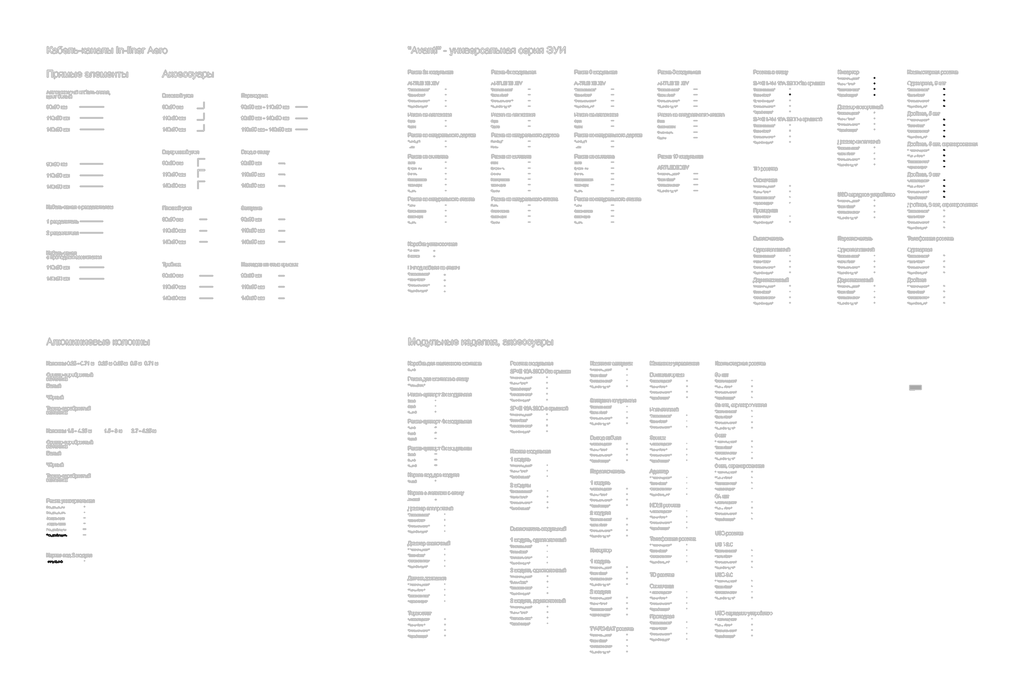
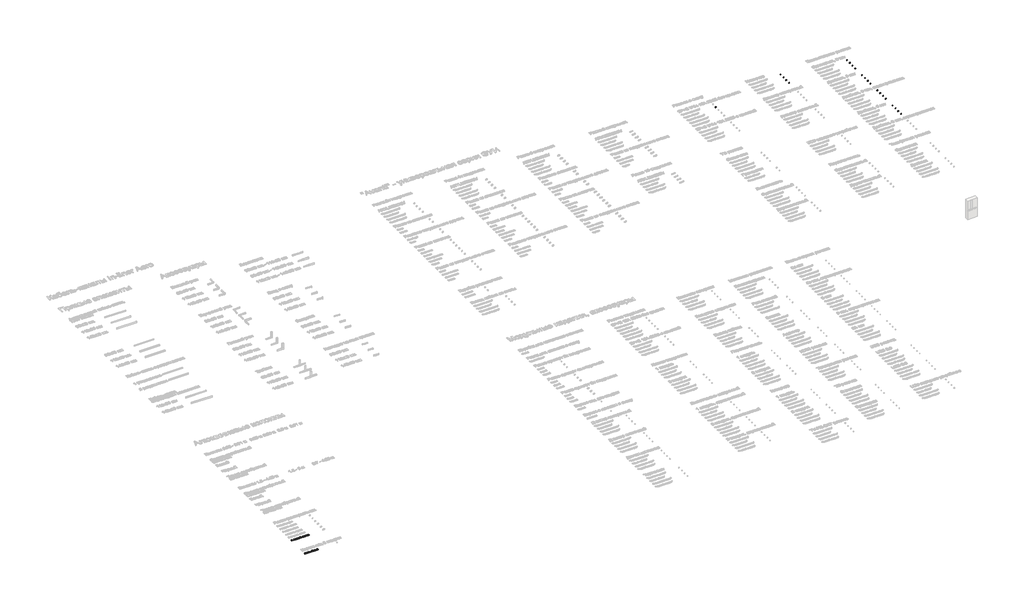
# One storey, part 4 of 168: 23 proxies.
"""IFC4 building model written with IfcOpenShell, lengths in millimetres."""

from ifc_helpers import new_model, si_unit, origin, origin_with_axes, place, context, project, spatial, polyline, outline, extrude, transform, mapped, element, save
from components import electrical_fixtures_3f9b09d0, electrical_fixtures_08b576f3, electrical_fixtures_504ae2bb, electrical_fixtures_d27445fa

model = new_model("IFC4")

# Units and contexts
model_context = context("Model", 3, world=origin())
ifc_project = project(units=[si_unit("LENGTHUNIT", "METRE", prefix="MILLI")], contexts=[model_context])

# Site, building, storey
site = spatial("IfcSite", under=ifc_project)
building = spatial("IfcBuilding", under=site)
storey = spatial("IfcBuildingStorey", under=building, Name="Этаж 01", Elevation=0.0)

# Proxies
placement = place(None, origin())
electrical_fixtures_shape = electrical_fixtures_3f9b09d0(model_context)
element("IfcBuildingElementProxy", 1, Name="КНС_РозеткаВСтену_DKC : 2P+E IP44 16А 230В_Белая", ObjectType="КНС_РозеткаВСтену_DKC : 2P+E IP44 16А 230В_Белая", at=placement, inside=storey, context=model_context, shape_type="MappedRepresentation", body=[
    mapped(electrical_fixtures_shape, transform((66821.1137461, -6896.8608655, 0.0), x_axis=(1.0, 0.0, 0.0), y_axis=(0.0, 1.0, 0.0), z_axis=(0.0, 0.0, 1.0))),
])
electrical_fixtures_2_shape = electrical_fixtures_08b576f3(model_context)
element("IfcBuildingElementProxy", 2, Name="КНС_ИнверторВСтену_DKC : Одноклавишный_Белый", ObjectType="КНС_ИнверторВСтену_DKC : Одноклавишный_Белый", at=placement, inside=storey, context=model_context, shape_type="MappedRepresentation", body=[
    mapped(electrical_fixtures_2_shape, transform((74321.1137461, -5896.8608655, 0.0), x_axis=(1.0, 0.0, 0.0), y_axis=(0.0, 1.0, 0.0), z_axis=(0.0, 0.0, 1.0))),
])
element("IfcBuildingElementProxy", 3, Name="КНС_ИнверторВСтену_DKC : Одноклавишный_Бежевый", ObjectType="КНС_ИнверторВСтену_DKC : Одноклавишный_Бежевый", at=placement, inside=storey, context=model_context, shape_type="MappedRepresentation", body=[
    mapped(electrical_fixtures_2_shape, transform((74321.1137461, -5396.8608655, 0.0), x_axis=(1.0, 0.0, 0.0), y_axis=(0.0, 1.0, 0.0), z_axis=(0.0, 0.0, 1.0))),
])
element("IfcBuildingElementProxy", 4, Name="КНС_ИнверторВСтену_DKC : Одноклавишный_Серый", ObjectType="КНС_ИнверторВСтену_DKC : Одноклавишный_Серый", at=placement, inside=storey, context=model_context, shape_type="MappedRepresentation", body=[
    mapped(electrical_fixtures_2_shape, transform((74321.1137461, -6396.8608655, 0.0), x_axis=(1.0, 0.0, 0.0), y_axis=(0.0, 1.0, 0.0), z_axis=(0.0, 0.0, 1.0))),
])
element("IfcBuildingElementProxy", 5, Name="КНС_ИнверторВСтену_DKC : Одноклавишный_Черный", ObjectType="КНС_ИнверторВСтену_DKC : Одноклавишный_Черный", at=placement, inside=storey, context=model_context, shape_type="MappedRepresentation", body=[
    mapped(electrical_fixtures_2_shape, transform((74321.1137461, -6896.8608655, 0.0), x_axis=(1.0, 0.0, 0.0), y_axis=(0.0, 1.0, 0.0), z_axis=(0.0, 0.0, 1.0))),
])
electrical_fixtures_3_shape = electrical_fixtures_504ae2bb(model_context)
element("IfcBuildingElementProxy", 6, Name="КНС_РозеткаКомпьютернаяВСтену_DKC : 5 кат двойная экранированная белая", ObjectType="КНС_РозеткаКомпьютернаяВСтену_DKC : 5 кат двойная экранированная белая", at=placement, inside=storey, context=model_context, shape_type="MappedRepresentation", body=[
    mapped(electrical_fixtures_3_shape, transform((80521.1137461, -12296.8608655, 0.0), x_axis=(1.0, 0.0, 0.0), y_axis=(0.0, 1.0, 0.0), z_axis=(0.0, 0.0, 1.0))),
])
element("IfcBuildingElementProxy", 7, Name="КНС_РозеткаКомпьютернаяВСтену_DKC : 5 кат двойная экранированная бежевая", ObjectType="КНС_РозеткаКомпьютернаяВСтену_DKC : 5 кат двойная экранированная бежевая", at=placement, inside=storey, context=model_context, shape_type="MappedRepresentation", body=[
    mapped(electrical_fixtures_3_shape, transform((80521.1137461, -11796.8608655, 0.0), x_axis=(1.0, 0.0, 0.0), y_axis=(0.0, 1.0, 0.0), z_axis=(0.0, 0.0, 1.0))),
])
element("IfcBuildingElementProxy", 8, Name="КНС_РозеткаКомпьютернаяВСтену_DKC : 5 кат двойная экранированная серая", ObjectType="КНС_РозеткаКомпьютернаяВСтену_DKC : 5 кат двойная экранированная серая", at=placement, inside=storey, context=model_context, shape_type="MappedRepresentation", body=[
    mapped(electrical_fixtures_3_shape, transform((80521.1137461, -12796.8608655, 0.0), x_axis=(1.0, 0.0, 0.0), y_axis=(0.0, 1.0, 0.0), z_axis=(0.0, 0.0, 1.0))),
])
element("IfcBuildingElementProxy", 9, Name="КНС_РозеткаКомпьютернаяВСтену_DKC : 5 кат двойная экранированная черная", ObjectType="КНС_РозеткаКомпьютернаяВСтену_DKC : 5 кат двойная экранированная черная", at=placement, inside=storey, context=model_context, shape_type="MappedRepresentation", body=[
    mapped(electrical_fixtures_3_shape, transform((80521.1137461, -13296.8608655, 0.0), x_axis=(1.0, 0.0, 0.0), y_axis=(0.0, 1.0, 0.0), z_axis=(0.0, 0.0, 1.0))),
])
element("IfcBuildingElementProxy", 10, Name="КНС_РозеткаКомпьютернаяВСтену_DKC : 5 кат двойная белая", ObjectType="КНС_РозеткаКомпьютернаяВСтену_DKC : 5 кат двойная белая", at=placement, inside=storey, context=model_context, shape_type="MappedRepresentation", body=[
    mapped(electrical_fixtures_3_shape, transform((80521.1137461, -9596.8608655, 0.0), x_axis=(1.0, 0.0, 0.0), y_axis=(0.0, 1.0, 0.0), z_axis=(0.0, 0.0, 1.0))),
])
element("IfcBuildingElementProxy", 11, Name="КНС_РозеткаКомпьютернаяВСтену_DKC : 5 кат двойная бежевая", ObjectType="КНС_РозеткаКомпьютернаяВСтену_DKC : 5 кат двойная бежевая", at=placement, inside=storey, context=model_context, shape_type="MappedRepresentation", body=[
    mapped(electrical_fixtures_3_shape, transform((80521.1137461, -9096.8608655, 0.0), x_axis=(1.0, 0.0, 0.0), y_axis=(0.0, 1.0, 0.0), z_axis=(0.0, 0.0, 1.0))),
])
element("IfcBuildingElementProxy", 12, Name="КНС_РозеткаКомпьютернаяВСтену_DKC : 5 кат двойная серая", ObjectType="КНС_РозеткаКомпьютернаяВСтену_DKC : 5 кат двойная серая", at=placement, inside=storey, context=model_context, shape_type="MappedRepresentation", body=[
    mapped(electrical_fixtures_3_shape, transform((80521.1137461, -10096.8608655, 0.0), x_axis=(1.0, 0.0, 0.0), y_axis=(0.0, 1.0, 0.0), z_axis=(0.0, 0.0, 1.0))),
])
element("IfcBuildingElementProxy", 13, Name="КНС_РозеткаКомпьютернаяВСтену_DKC : 5 кат двойная черная", ObjectType="КНС_РозеткаКомпьютернаяВСтену_DKC : 5 кат двойная черная", at=placement, inside=storey, context=model_context, shape_type="MappedRepresentation", body=[
    mapped(electrical_fixtures_3_shape, transform((80521.1137461, -10596.8608655, 0.0), x_axis=(1.0, 0.0, 0.0), y_axis=(0.0, 1.0, 0.0), z_axis=(0.0, 0.0, 1.0))),
])
electrical_fixtures_4_shape = electrical_fixtures_d27445fa(model_context)
element("IfcBuildingElementProxy", 14, Name="КНС_РозеткаКомпьютернаяВСтену_DKC : 5 кат одинарная бежевая", ObjectType="КНС_РозеткаКомпьютернаяВСтену_DKC : 5 кат одинарная бежевая", at=placement, inside=storey, context=model_context, shape_type="MappedRepresentation", body=[
    mapped(electrical_fixtures_4_shape, transform((80521.1137461, -6396.8608655, 0.0), x_axis=(1.0, 0.0, 0.0), y_axis=(0.0, 1.0, 0.0), z_axis=(0.0, 0.0, 1.0))),
])
element("IfcBuildingElementProxy", 15, Name="КНС_РозеткаКомпьютернаяВСтену_DKC : 5 кат одинарная белая", ObjectType="КНС_РозеткаКомпьютернаяВСтену_DKC : 5 кат одинарная белая", at=placement, inside=storey, context=model_context, shape_type="MappedRepresentation", body=[
    mapped(electrical_fixtures_4_shape, transform((80521.1137461, -6896.8608655, 0.0), x_axis=(1.0, 0.0, 0.0), y_axis=(0.0, 1.0, 0.0), z_axis=(0.0, 0.0, 1.0))),
])
element("IfcBuildingElementProxy", 16, Name="КНС_РозеткаКомпьютернаяВСтену_DKC : 5 кат одинарная серая", ObjectType="КНС_РозеткаКомпьютернаяВСтену_DKC : 5 кат одинарная серая", at=placement, inside=storey, context=model_context, shape_type="MappedRepresentation", body=[
    mapped(electrical_fixtures_4_shape, transform((80521.1137461, -7396.8608655, 0.0), x_axis=(1.0, 0.0, 0.0), y_axis=(0.0, 1.0, 0.0), z_axis=(0.0, 0.0, 1.0))),
])
element("IfcBuildingElementProxy", 17, Name="КНС_РозеткаКомпьютернаяВСтену_DKC : 5 кат одинарная черная", ObjectType="КНС_РозеткаКомпьютернаяВСтену_DKC : 5 кат одинарная черная", at=placement, inside=storey, context=model_context, shape_type="MappedRepresentation", body=[
    mapped(electrical_fixtures_4_shape, transform((80521.1137461, -7896.8608655, 0.0), x_axis=(1.0, 0.0, 0.0), y_axis=(0.0, 1.0, 0.0), z_axis=(0.0, 0.0, 1.0))),
])
element("IfcBuildingElementProxy", 18, Name="КНС_РозеткаКомпьютернаяВСтену_DKC : 6 кат двойная бежевая", ObjectType="КНС_РозеткаКомпьютернаяВСтену_DKC : 6 кат двойная бежевая", at=placement, inside=storey, context=model_context, shape_type="MappedRepresentation", body=[
    mapped(electrical_fixtures_3_shape, transform((80521.1137461, -14496.8608655, 0.0), x_axis=(1.0, 0.0, 0.0), y_axis=(0.0, 1.0, 0.0), z_axis=(0.0, 0.0, 1.0))),
])
element("IfcBuildingElementProxy", 19, Name="КНС_РозеткаКомпьютернаяВСтену_DKC : 6 кат двойная белая", ObjectType="КНС_РозеткаКомпьютернаяВСтену_DKC : 6 кат двойная белая", at=placement, inside=storey, context=model_context, shape_type="MappedRepresentation", body=[
    mapped(electrical_fixtures_3_shape, transform((80521.1137461, -14996.8608655, 0.0), x_axis=(1.0, 0.0, 0.0), y_axis=(0.0, 1.0, 0.0), z_axis=(0.0, 0.0, 1.0))),
])
element("IfcBuildingElementProxy", 20, Name="КНС_РозеткаКомпьютернаяВСтену_DKC : 6 кат двойная черная", ObjectType="КНС_РозеткаКомпьютернаяВСтену_DKC : 6 кат двойная черная", at=placement, inside=storey, context=model_context, shape_type="MappedRepresentation", body=[
    mapped(electrical_fixtures_3_shape, transform((80521.1137461, -15996.8608655, 0.0), x_axis=(1.0, 0.0, 0.0), y_axis=(0.0, 1.0, 0.0), z_axis=(0.0, 0.0, 1.0))),
])
element("IfcBuildingElementProxy", 21, Name="КНС_РозеткаКомпьютернаяВСтену_DKC : 6 кат двойная серая", ObjectType="КНС_РозеткаКомпьютернаяВСтену_DKC : 6 кат двойная серая", at=placement, inside=storey, context=model_context, shape_type="MappedRepresentation", body=[
    mapped(electrical_fixtures_3_shape, transform((80521.1137461, -15496.8608655, 0.0), x_axis=(1.0, 0.0, 0.0), y_axis=(0.0, 1.0, 0.0), z_axis=(0.0, 0.0, 1.0))),
])
element("IfcBuildingElementProxy", 22, Name="150", ObjectType="150", at=placement, inside=storey, context=model_context, shape_type="SweptSolid", body=[
    extrude(outline(polyline([(851.8055194, -46064.5754754), (832.9699613, -46066.9299202), (825.8330505, -46051.221359), (817.2889912, -46045.3444441), (806.9607042, -46043.3854725), (789.964556, -46047.9472093), (777.1070803, -46065.0721161), (773.2029326, -46079.1022157), (771.7543973, -46098.6413482), (788.3642693, -46083.6133687), (808.947267, -46078.7021441), (826.3480853, -46082.0590673), (840.9530005, -46092.1298369), (850.8582233, -46107.5165013), (854.1599642, -46126.821109), (852.6056627, -46140.3085827), (847.9427585, -46152.811972), (840.5575274, -46163.4161705), (830.8362457, -46171.2060717), (819.2203717, -46175.9931362), (806.1513638, -46177.5888244), (784.7820184, -46173.3581814), (767.7628776, -46160.6662526), (756.6298487, -46138.2622391), (752.9188391, -46104.8953421), (757.0391174, -46067.3805757), (769.3999525, -46041.7300035), (786.276539, -46028.8449367), (808.1379266, -46024.5499144), (824.6650252, -46027.2078618), (837.89958, -46035.181704), (847.1702063, -46047.8460417), (851.8055194, -46064.5754754)]), holes=[polyline([(771.7543973, -46126.5268034), (776.1137989, -46142.8423699), (787.7020817, -46154.6881702), (804.6798358, -46158.7532662), (817.1096487, -46156.6471418), (826.8815142, -46150.3287685), (833.2136831, -46140.3959547), (835.324406, -46127.4465084), (833.2412742, -46115.0166955), (826.9918788, -46105.5391356), (817.0544664, -46099.5380606), (803.9072836, -46097.5377022), (791.4958648, -46099.5380606), (781.116994, -46105.5391356), (774.0950464, -46114.7867693), (771.7543973, -46126.5268034)])]), origin_with_axes(), (0.0, 0.0, 1.0), 20.0),
    extrude(outline(polyline([(934.2110863, -46064.5754754), (966.6214901, -46064.5754754), (991.6006776, -46153.1614599), (1018.5296396, -46064.5754754), (1049.57888, -46064.5754754), (1049.57888, -46175.2343796), (1030.7433219, -46175.2343796), (1030.7433219, -46086.1333604), (1003.667207, -46175.2343796), (978.9455369, -46175.2343796), (953.0466445, -46081.8659292), (953.0466445, -46175.2343796), (934.2110863, -46175.2343796), (934.2110863, -46064.5754754)])), origin_with_axes(), (0.0, 0.0, 1.0), 20.0),
    extrude(outline(polyline([(1073.1233277, -46119.9049275), (1077.1976208, -46093.2242858), (1089.4205001, -46074.4715011), (1104.522056, -46065.2836483), (1122.6034561, -46062.2210307), (1142.3909089, -46065.9504344), (1158.1960391, -46077.1386456), (1168.5565158, -46094.9027474), (1172.010008, -46118.3598231), (1170.4832977, -46137.3885193), (1165.9031669, -46151.8738729), (1158.4029727, -46162.7217932), (1148.1160724, -46170.8381898), (1135.8977917, -46175.9011657), (1122.6034561, -46177.5888244), (1102.5768799, -46173.8732162), (1086.7901438, -46162.7263918), (1076.5400317, -46144.5898094), (1073.1233277, -46119.9049275)]), holes=[polyline([(1091.9588859, -46119.8681393), (1094.1385867, -46136.9148713), (1100.6776891, -46149.0595756), (1110.5185325, -46156.3298436), (1122.6034561, -46158.7532662), (1134.6331973, -46156.316048), (1144.4556466, -46149.0043933), (1150.994749, -46136.6987406), (1153.1744499, -46119.2795281), (1150.9809535, -46102.7294369), (1144.4004643, -46090.7502794), (1134.5642194, -46083.4800115), (1122.6034561, -46081.0565888), (1110.5185325, -46083.4708144), (1100.6776891, -46090.7134912), (1094.1385867, -46102.8306044), (1091.9588859, -46119.8681393)])]), origin_with_axes(), (0.0, 0.0, 1.0), 20.0),
    extrude(outline(polyline([(1209.6811243, -46064.5754754), (1280.3144674, -46064.5754754), (1280.3144674, -46156.3988214), (1294.441136, -46156.3988214), (1294.441136, -46205.8421616), (1275.6055778, -46205.8421616), (1275.6055778, -46175.2343796), (1197.9089005, -46175.2343796), (1197.9089005, -46205.8421616), (1179.0733423, -46205.8421616), (1179.0733423, -46156.3988214), (1190.8455662, -46156.3988214), (1199.4034211, -46140.9339821), (1205.3952991, -46120.4751446), (1209.6811243, -46064.5754754)]), holes=[polyline([(1226.1622377, -46083.4110336), (1221.7476538, -46126.3244683), (1212.0355691, -46156.3988214), (1261.4789092, -46156.3988214), (1261.4789092, -46083.4110336), (1226.1622377, -46083.4110336)])]), origin_with_axes(), (0.0, 0.0, 1.0), 20.0),
    extrude(outline(polyline([(1315.6311389, -46217.6143854), (1313.2766942, -46199.4778031), (1322.841626, -46201.1332721), (1331.7811585, -46199.0547388), (1337.2626002, -46193.2605974), (1342.4129482, -46179.3914461), (1343.8844762, -46174.8297094), (1303.8589151, -46064.5754754), (1323.7245428, -46064.5754754), (1344.9513339, -46126.0117686), (1352.345762, -46150.5862859), (1359.7401901, -46128.8812482), (1381.5555925, -46064.5754754), (1401.2740674, -46064.5754754), (1362.7568225, -46177.88313), (1352.7504322, -46202.4576472), (1341.824337, -46215.7381873), (1327.1458454, -46219.9688302), (1315.6311389, -46217.6143854)])), origin_with_axes(), (0.0, 0.0, 1.0), 20.0),
    extrude(outline(polyline([(1426.2900431, -46064.5754754), (1511.0500548, -46064.5754754), (1511.0500548, -46175.124015), (1492.2144966, -46175.124015), (1492.2144966, -46083.4110336), (1445.1256012, -46083.4110336), (1445.1256012, -46136.2020999), (1443.8564083, -46160.555888), (1436.8850445, -46170.8381898), (1420.4039312, -46175.2343796), (1405.1000402, -46174.2778864), (1405.1000402, -46156.3988214), (1413.5245378, -46156.3988214), (1422.041006, -46155.2399932), (1425.4439145, -46151.5611732), (1426.2900431, -46135.1352421), (1426.2900431, -46064.5754754)])), origin_with_axes(), (0.0, 0.0, 1.0), 20.0),
    extrude(outline(polyline([(1616.7793402, -46142.2721528), (1635.2470163, -46144.6265976), (1628.5929507, -46158.5417341), (1617.9749567, -46168.9435975), (1603.6321574, -46175.4275176), (1585.8036762, -46177.5888244), (1563.7031653, -46173.8594206), (1546.6978201, -46162.6712095), (1535.8544983, -46144.7507578), (1532.2400577, -46120.8246325), (1535.8912865, -46096.0937654), (1546.8449729, -46077.5984981), (1563.6203919, -46066.0653975), (1584.7368184, -46062.2210307), (1605.1956559, -46066.0562005), (1621.543412, -46077.5617099), (1632.2625736, -46096.020189), (1635.8356275, -46120.7142679), (1635.7252629, -46125.7910394), (1551.0756158, -46125.7910394), (1554.33597, -46139.8901169), (1561.9097406, -46150.2551921), (1572.8404344, -46156.6287477), (1586.1715582, -46158.7532662), (1604.6392343, -46154.8169289), (1616.7793402, -46142.2721528)]), holes=[polyline([(1551.0756158, -46106.9554813), (1617.0000694, -46106.9554813), (1614.4524866, -46097.0042733), (1609.4584885, -46089.8857567), (1598.4772109, -46083.2638808), (1584.663242, -46081.0565888), (1571.9667146, -46082.8178239), (1561.4682822, -46088.101529), (1554.1704231, -46096.3374872), (1551.0756158, -46106.9554813)])]), origin_with_axes(), (0.0, 0.0, 1.0), 20.0),
    extrude(outline(polyline([(1715.8867497, -46024.5499144), (1730.0134183, -46024.5499144), (1726.9737933, -46036.6118453), (1720.8715507, -46045.500794), (1711.982602, -46050.9776372), (1700.5828587, -46052.8032516), (1688.2128266, -46050.9914328), (1678.6203036, -46045.5559763), (1672.062807, -46036.6808232), (1668.7978543, -46024.5499144), (1682.9245229, -46024.5499144), (1688.2220236, -46035.1633099), (1698.8906015, -46038.676583), (1710.5892489, -46035.2736745), (1715.8867497, -46024.5499144)])), origin_with_axes(), (0.0, 0.0, 1.0), 20.0),
    extrude(outline(polyline([(1654.6711857, -46064.5754754), (1673.5067438, -46064.5754754), (1673.5067438, -46148.9676051), (1719.7862988, -46064.5754754), (1744.1400869, -46064.5754754), (1744.1400869, -46175.2343796), (1725.3045288, -46175.2343796), (1725.3045288, -46091.3572847), (1679.3192794, -46175.2343796), (1654.6711857, -46175.2343796), (1654.6711857, -46064.5754754)])), origin_with_axes(), (0.0, 0.0, 1.0), 20.0),
    extrude(outline(polyline([(1777.1023137, -46175.2343796), (1777.1023137, -46156.3988214), (1795.9378718, -46156.3988214), (1795.9378718, -46175.2343796), (1792.5533575, -46194.493002), (1781.8112032, -46205.8421616), (1777.1023137, -46198.7788273), (1784.0184952, -46190.6486352), (1786.4833046, -46175.2343796), (1777.1023137, -46175.2343796)])), origin_with_axes(), (0.0, 0.0, 1.0), 20.0),
    extrude(outline(polyline([(1883.0523283, -46064.5754754), (1901.8878864, -46064.5754754), (1901.8878864, -46085.8022666), (1903.4145967, -46105.7046825), (1910.7538425, -46116.483625), (1925.3219695, -46121.0821499), (1951.3312266, -46115.379979), (1951.3312266, -46064.5754754), (1970.1667847, -46064.5754754), (1970.1667847, -46175.2343796), (1951.3312266, -46175.2343796), (1951.3312266, -46133.4429849), (1920.2819862, -46139.9177081), (1908.8914399, -46138.2300494), (1898.9264364, -46133.1670734), (1891.1595278, -46125.6576822), (1886.3632662, -46116.6307778), (1883.0523283, -46095.109681), (1883.0523283, -46064.5754754)])), origin_with_axes(), (0.0, 0.0, 1.0), 20.0),
    extrude(outline(polyline([(2075.8960702, -46142.2721528), (2094.3637463, -46144.6265976), (2087.7096807, -46158.5417341), (2077.0916866, -46168.9435975), (2062.7488874, -46175.4275176), (2044.9204062, -46177.5888244), (2022.8198953, -46173.8594206), (2005.8145501, -46162.6712095), (1994.9712283, -46144.7507578), (1991.3567877, -46120.8246325), (1995.0080165, -46096.0937654), (2005.9617029, -46077.5984981), (2022.7371219, -46066.0653975), (2043.8535484, -46062.2210307), (2064.3123858, -46066.0562005), (2080.660142, -46077.5617099), (2091.3793036, -46096.020189), (2094.9523575, -46120.7142679), (2094.8419929, -46125.7910394), (2010.1923458, -46125.7910394), (2013.4527, -46139.8901169), (2021.0264706, -46150.2551921), (2031.9571644, -46156.6287477), (2045.2882882, -46158.7532662), (2063.7559643, -46154.8169289), (2075.8960702, -46142.2721528)]), holes=[polyline([(2010.1923458, -46106.9554813), (2076.1167994, -46106.9554813), (2073.5692165, -46097.0042733), (2068.5752185, -46089.8857567), (2057.5939409, -46083.2638808), (2043.779972, -46081.0565888), (2031.0834446, -46082.8178239), (2020.5850122, -46088.101529), (2013.2871531, -46096.3374872), (2010.1923458, -46106.9554813)])]), origin_with_axes(), (0.0, 0.0, 1.0), 20.0),
    extrude(outline(polyline([(2113.7879157, -46217.6143854), (2113.7879157, -46064.5754754), (2132.6234738, -46064.5754754), (2132.6234738, -46083.0431516), (2145.6464964, -46067.4265609), (2163.2312558, -46062.2210307), (2175.9691699, -46064.0420466), (2187.1067973, -46069.5050942), (2196.1750885, -46078.2790798), (2202.7049939, -46090.0329095), (2207.9657064, -46119.0587989), (2206.4803829, -46135.1674318), (2202.0244122, -46149.5746104), (2194.7403487, -46161.5491694), (2184.7707466, -46170.3599432), (2173.1594712, -46175.7816041), (2160.9503874, -46177.5888244), (2144.5612446, -46172.7511761), (2132.6234738, -46160.5190998), (2132.6234738, -46217.6143854), (2113.7879157, -46217.6143854)]), holes=[polyline([(2132.6234738, -46120.7878443), (2134.6606204, -46137.6736279), (2140.77206, -46149.4826399), (2149.7897674, -46156.4356096), (2160.5457172, -46158.7532662), (2171.476411, -46156.3528362), (2180.7240447, -46149.1515461), (2187.0286224, -46136.9102727), (2189.1301483, -46119.3898927), (2187.0792061, -46102.5960796), (2180.9263798, -46090.6215207), (2171.9224679, -46083.4478218), (2161.3182694, -46081.0565888), (2150.6726842, -46083.5995731), (2141.323883, -46091.228526), (2134.7985761, -46103.7043242), (2132.6234738, -46120.7878443)])]), origin_with_axes(), (0.0, 0.0, 1.0), 20.0),
    extrude(outline(polyline([(2229.1557093, -46064.5754754), (2247.9912675, -46064.5754754), (2247.9912675, -46106.9554813), (2297.4346077, -46106.9554813), (2297.4346077, -46064.5754754), (2316.2701658, -46064.5754754), (2316.2701658, -46175.2343796), (2297.4346077, -46175.2343796), (2297.4346077, -46125.7910394), (2247.9912675, -46125.7910394), (2247.9912675, -46175.2343796), (2229.1557093, -46175.2343796), (2229.1557093, -46064.5754754)])), origin_with_axes(), (0.0, 0.0, 1.0), 20.0),
    extrude(outline(polyline([(2415.1568461, -46161.107711), (2396.891505, -46173.8732162), (2376.7131776, -46177.5888244), (2360.9724267, -46175.3539412), (2349.3611513, -46168.6492919), (2342.2012479, -46158.4681577), (2339.8146135, -46145.80382), (2343.419857, -46130.9045992), (2352.8928184, -46120.0888685), (2366.081388, -46113.908451), (2382.3785603, -46111.0757596), (2415.0464815, -46104.6010365), (2415.1568461, -46100.4071818), (2413.8600621, -46092.0010782), (2409.96971, -46086.5012424), (2401.2693008, -46082.4177522), (2389.147589, -46081.0565888), (2370.0913017, -46084.6802265), (2361.0046164, -46097.5377022), (2342.1690583, -46095.1832574), (2350.3176445, -46076.7891577), (2366.7251814, -46066.0102152), (2391.5756102, -46062.2210307), (2414.402688, -46065.5687568), (2427.2969519, -46073.9748604), (2433.0726993, -46086.7587598), (2433.9924043, -46103.2398731), (2433.9924043, -46126.6739562), (2434.9488974, -46159.3970597), (2438.7012938, -46175.2343796), (2419.8657356, -46175.2343796), (2415.1568461, -46161.107711)]), holes=[polyline([(2415.1568461, -46123.4365947), (2384.7697933, -46129.212342), (2368.5645914, -46132.2657626), (2361.2253456, -46137.2321695), (2358.6501716, -46144.4794448), (2364.2603721, -46154.6697761), (2380.7230914, -46158.7532662), (2399.7793787, -46154.2467118), (2412.0666373, -46143.3390106), (2415.0464815, -46128.7708836), (2415.1568461, -46123.4365947)])]), origin_with_axes(), (0.0, 0.0, 1.0), 20.0),
    extrude(outline(polyline([(2544.6513084, -46064.5754754), (2544.6513084, -46175.2343796), (2525.8157503, -46175.2343796), (2525.8157503, -46132.8543737), (2515.5518426, -46132.8543737), (2501.5723268, -46135.2456067), (2488.4389395, -46151.3220499), (2473.4293541, -46175.2343796), (2451.65074, -46175.2343796), (2470.5598746, -46144.9944796), (2478.9107959, -46134.1419607), (2486.5995296, -46129.3227066), (2473.7236597, -46125.3771722), (2464.6737627, -46117.8815765), (2459.3210796, -46107.9119745), (2457.536852, -46096.5444208), (2459.9740702, -46083.6501569), (2467.2857248, -46073.4414315), (2479.2142985, -46066.7919645), (2495.5022739, -46064.5754754), (2544.6513084, -46064.5754754)]), holes=[polyline([(2525.8157503, -46083.4110336), (2500.9837156, -46083.4110336), (2488.1584295, -46084.500884), (2480.8789645, -46087.7704352), (2476.3724101, -46097.9791606), (2478.0324776, -46105.157458), (2483.0126801, -46110.1376605), (2506.5387337, -46114.0188156), (2525.8157503, -46114.0188156), (2525.8157503, -46083.4110336)])]), origin_with_axes(), (0.0, 0.0, 1.0), 20.0),
])
element("IfcBuildingElementProxy", 23, Name="150", ObjectType="150", at=placement, inside=storey, context=model_context, shape_type="SweptSolid", body=[
    extrude(outline(polyline([(762.3366182, -48517.6820079), (762.3366182, -48366.9975427), (819.836574, -48366.9975427), (847.9979408, -48371.4305207), (857.4617051, -48377.0545167), (864.6262069, -48385.0605487), (870.6410776, -48404.3375652), (865.5827001, -48421.9407187), (850.2972032, -48435.276441), (860.9703796, -48440.8498532), (868.8568499, -48449.3295332), (873.7266878, -48460.1544609), (875.3499671, -48472.7636163), (870.9169891, -48493.0155201), (859.9357115, -48507.4364944), (843.5465686, -48515.0884399), (819.3951156, -48517.6820079), (762.3366182, -48517.6820079)]), holes=[polyline([(781.1721763, -48428.2131067), (815.5691429, -48428.2131067), (835.6554998, -48426.5944259), (847.7404234, -48419.6230621), (851.8055194, -48407.3541976), (848.0163349, -48395.0669389), (837.163816, -48387.8012695), (812.9571807, -48385.8331008), (781.1721763, -48385.8331008), (781.1721763, -48428.2131067)]), polyline([(781.1721763, -48498.8464498), (819.7997858, -48498.8464498), (833.7793016, -48498.1106858), (845.6067078, -48494.0088015), (853.4425943, -48485.6394861), (856.5144089, -48472.9475573), (852.9091654, -48458.3058539), (841.228912, -48449.5686565), (817.9603758, -48447.0486648), (781.1721763, -48447.0486648), (781.1721763, -48498.8464498)])]), origin_with_axes(), (0.0, 0.0, 1.0), 20.0),
    extrude(outline(polyline([(898.8944148, -48517.6820079), (898.8944148, -48407.0231038), (915.3755282, -48407.0231038), (915.3755282, -48423.3938526), (927.0741756, -48408.3106908), (938.8463995, -48404.668659), (957.755534, -48410.4811945), (951.4647519, -48427.3669781), (938.2210001, -48423.5042172), (927.5708163, -48427.2198253), (920.7833935, -48437.5205212), (917.7299729, -48459.5198645), (917.7299729, -48517.6820079), (898.8944148, -48517.6820079)])), origin_with_axes(), (0.0, 0.0, 1.0), 20.0),
    extrude(outline(polyline([(1040.1611009, -48503.5553393), (1021.8957599, -48516.3208445), (1001.7174324, -48520.0364527), (985.9766816, -48517.8015696), (974.3654061, -48511.0969202), (967.2055028, -48500.915786), (964.8188683, -48488.2514483), (968.4241119, -48473.3522275), (977.8970733, -48462.5364968), (991.0856428, -48456.3560793), (1007.3828152, -48453.523388), (1040.0507363, -48447.0486648), (1040.1611009, -48442.8548101), (1038.8643169, -48434.4487065), (1034.9739648, -48428.9488707), (1026.2735556, -48424.8653805), (1014.1518439, -48423.5042172), (995.0955565, -48427.1278548), (986.0088712, -48439.9853305), (967.1733131, -48437.6308858), (975.3218993, -48419.236786), (991.7294363, -48408.4578436), (1016.579865, -48404.668659), (1039.4069428, -48408.0163852), (1052.3012068, -48416.4224887), (1058.0769541, -48429.2063881), (1058.9966591, -48445.6875015), (1058.9966591, -48469.1215846), (1059.9531523, -48501.844688), (1063.7055486, -48517.6820079), (1044.8699905, -48517.6820079), (1040.1611009, -48503.5553393)]), holes=[polyline([(1040.1611009, -48465.884223), (1009.7740481, -48471.6599703), (993.5688462, -48474.7133909), (986.2296004, -48479.6797978), (983.6544265, -48486.9270731), (989.2646269, -48497.1174044), (1005.7273462, -48501.2008945), (1024.7836335, -48496.6943401), (1037.0708922, -48485.7866389), (1040.0507363, -48471.2185119), (1040.1611009, -48465.884223)])]), origin_with_axes(), (0.0, 0.0, 1.0), 20.0),
    extrude(outline(polyline([(1112.0452428, -48517.6820079), (1073.1233277, -48407.0231038), (1093.0625318, -48407.0231038), (1116.6437677, -48473.3154393), (1123.7438902, -48495.6090882), (1130.6968599, -48474.5662381), (1154.4252486, -48407.0231038), (1174.3644528, -48407.0231038), (1135.9207843, -48517.6820079), (1112.0452428, -48517.6820079)])), origin_with_axes(), (0.0, 0.0, 1.0), 20.0),
    extrude(outline(polyline([(1261.4789092, -48503.5553393), (1243.2135682, -48516.3208445), (1223.0352407, -48520.0364527), (1207.2944899, -48517.8015696), (1195.6832144, -48511.0969202), (1188.5233111, -48500.915786), (1186.1366766, -48488.2514483), (1189.7419202, -48473.3522275), (1199.2148816, -48462.5364968), (1212.4034511, -48456.3560793), (1228.7006235, -48453.523388), (1261.3685446, -48447.0486648), (1261.4789092, -48442.8548101), (1260.1821252, -48434.4487065), (1256.2917731, -48428.9488707), (1247.5913639, -48424.8653805), (1235.4696522, -48423.5042172), (1216.4133648, -48427.1278548), (1207.3266795, -48439.9853305), (1188.4911214, -48437.6308858), (1196.6397076, -48419.236786), (1213.0472446, -48408.4578436), (1237.8976733, -48404.668659), (1260.7247511, -48408.0163852), (1273.6190151, -48416.4224887), (1279.3947624, -48429.2063881), (1280.3144674, -48445.6875015), (1280.3144674, -48469.1215846), (1281.2709606, -48501.844688), (1285.0233569, -48517.6820079), (1266.1877988, -48517.6820079), (1261.4789092, -48503.5553393)]), holes=[polyline([(1261.4789092, -48465.884223), (1231.0918564, -48471.6599703), (1214.8866545, -48474.7133909), (1207.5474087, -48479.6797978), (1204.9722348, -48486.9270731), (1210.5824352, -48497.1174044), (1227.0451545, -48501.2008945), (1246.1014418, -48496.6943401), (1258.3887005, -48485.7866389), (1261.3685446, -48471.2185119), (1261.4789092, -48465.884223)])]), origin_with_axes(), (0.0, 0.0, 1.0), 20.0),
    extrude(outline(polyline([(1310.9222494, -48517.6820079), (1310.9222494, -48498.8464498), (1329.7578075, -48498.8464498), (1329.7578075, -48517.6820079), (1326.3732932, -48536.9406304), (1315.6311389, -48548.2897899), (1310.9222494, -48541.2264556), (1317.8384309, -48533.0962635), (1320.3032403, -48517.6820079), (1310.9222494, -48517.6820079)])), origin_with_axes(), (0.0, 0.0, 1.0), 20.0),
    extrude(outline(polyline([(1416.872264, -48407.0231038), (1435.7078222, -48407.0231038), (1435.7078222, -48428.2498949), (1437.2345324, -48448.1523108), (1444.5737782, -48458.9312533), (1459.1419052, -48463.5297782), (1485.1511623, -48457.8276073), (1485.1511623, -48407.0231038), (1503.9867205, -48407.0231038), (1503.9867205, -48517.6820079), (1485.1511623, -48517.6820079), (1485.1511623, -48475.8906133), (1454.1019219, -48482.3653364), (1442.7113756, -48480.6776777), (1432.7463721, -48475.6147018), (1424.9794635, -48468.1053105), (1420.183202, -48459.0784061), (1416.872264, -48437.5573094), (1416.872264, -48407.0231038)])), origin_with_axes(), (0.0, 0.0, 1.0), 20.0),
    extrude(outline(polyline([(1609.7160059, -48484.7197812), (1628.183682, -48487.0742259), (1621.5296164, -48500.9893624), (1610.9116224, -48511.3912258), (1596.5688231, -48517.875146), (1578.7403419, -48520.0364527), (1556.639831, -48516.307049), (1539.6344858, -48505.1188378), (1528.791164, -48487.1983861), (1525.1767234, -48463.2722608), (1528.8279522, -48438.5413937), (1539.7816386, -48420.0461264), (1556.5570576, -48408.5130258), (1577.6734841, -48404.668659), (1598.1323215, -48408.5038288), (1614.4800777, -48420.0093382), (1625.1992393, -48438.4678173), (1628.7722932, -48463.1618962), (1628.6619286, -48468.2386678), (1544.0122815, -48468.2386678), (1547.2726357, -48482.3377452), (1554.8464063, -48492.7028204), (1565.7771001, -48499.076376), (1579.1082239, -48501.2008945), (1597.5759, -48497.2645572), (1609.7160059, -48484.7197812)]), holes=[polyline([(1544.0122815, -48449.4031096), (1609.9367351, -48449.4031096), (1607.3891522, -48439.4519016), (1602.3951542, -48432.333385), (1591.4138766, -48425.7115091), (1577.5999077, -48423.5042172), (1564.9033803, -48425.2654522), (1554.4049479, -48430.5491574), (1547.1070888, -48438.7851155), (1544.0122815, -48449.4031096)])]), origin_with_axes(), (0.0, 0.0, 1.0), 20.0),
    extrude(outline(polyline([(1548.7211711, -48395.2508799), (1548.7211711, -48376.4153218), (1567.5567292, -48376.4153218), (1567.5567292, -48395.2508799), (1548.7211711, -48395.2508799)])), origin_with_axes(), (0.0, 0.0, 1.0), 20.0),
    extrude(outline(polyline([(1586.3922874, -48395.2508799), (1586.3922874, -48376.4153218), (1605.2278455, -48376.4153218), (1605.2278455, -48395.2508799), (1586.3922874, -48395.2508799)])), origin_with_axes(), (0.0, 0.0, 1.0), 20.0),
    extrude(outline(polyline([(1647.6078514, -48560.0620138), (1647.6078514, -48407.0231038), (1666.4434095, -48407.0231038), (1666.4434095, -48425.4907799), (1679.4664322, -48409.8741892), (1697.0511915, -48404.668659), (1709.7891056, -48406.4896749), (1720.926733, -48411.9527225), (1729.9950242, -48420.7267081), (1736.5249296, -48432.4805378), (1741.7856421, -48461.5064273), (1740.3003186, -48477.6150601), (1735.8443479, -48492.0222388), (1728.5602844, -48503.9967977), (1718.5906823, -48512.8075715), (1706.9794069, -48518.2292324), (1694.7703232, -48520.0364527), (1678.3811803, -48515.1988045), (1666.4434095, -48502.9667281), (1666.4434095, -48560.0620138), (1647.6078514, -48560.0620138)]), holes=[polyline([(1666.4434095, -48463.2354726), (1668.4805561, -48480.1212562), (1674.5919957, -48491.9302683), (1683.6097031, -48498.883238), (1694.365653, -48501.2008945), (1705.2963467, -48498.8004645), (1714.5439804, -48491.5991745), (1720.8485581, -48479.3579011), (1722.950084, -48461.8375211), (1720.8991419, -48445.043708), (1714.7463155, -48433.069149), (1705.7424037, -48425.8954501), (1695.1382051, -48423.5042172), (1684.4926199, -48426.0472014), (1675.1438187, -48433.6761543), (1668.6185118, -48446.1519525), (1666.4434095, -48463.2354726)])]), origin_with_axes(), (0.0, 0.0, 1.0), 20.0),
    extrude(outline(polyline([(1762.9756451, -48407.0231038), (1781.8112032, -48407.0231038), (1781.8112032, -48449.4031096), (1831.2545434, -48449.4031096), (1831.2545434, -48407.0231038), (1850.0901015, -48407.0231038), (1850.0901015, -48517.6820079), (1831.2545434, -48517.6820079), (1831.2545434, -48468.2386678), (1781.8112032, -48468.2386678), (1781.8112032, -48517.6820079), (1762.9756451, -48517.6820079), (1762.9756451, -48407.0231038)])), origin_with_axes(), (0.0, 0.0, 1.0), 20.0),
    extrude(outline(polyline([(1981.9390086, -48407.0231038), (2000.7745667, -48407.0231038), (2000.7745667, -48517.6820079), (1981.9390086, -48517.6820079), (1981.9390086, -48407.0231038)])), origin_with_axes(), (0.0, 0.0, 1.0), 20.0),
    extrude(outline(polyline([(1878.3434387, -48407.0231038), (1897.1789969, -48407.0231038), (1897.1789969, -48447.0486648), (1920.4659272, -48447.0486648), (1940.5936709, -48449.4077081), (1955.5066872, -48456.484838), (1964.7359268, -48467.7098374), (1967.81234, -48482.5124892), (1965.2325675, -48495.9907658), (1957.49325, -48507.362918), (1944.0885498, -48515.1022354), (1924.5126291, -48517.6820079), (1878.3434387, -48517.6820079), (1878.3434387, -48407.0231038)]), holes=[polyline([(1897.1789969, -48498.8464498), (1916.5295898, -48498.8464498), (1941.5087773, -48494.8917183), (1947.1097807, -48489.8287424), (1948.9767818, -48482.5492774), (1943.4401578, -48470.9609945), (1934.5604061, -48467.1534159), (1918.9943992, -48465.884223), (1897.1789969, -48465.884223), (1897.1789969, -48498.8464498)])]), origin_with_axes(), (0.0, 0.0, 1.0), 20.0),
    extrude(outline(polyline([(2029.027904, -48407.0231038), (2047.8634621, -48407.0231038), (2047.8634621, -48491.4152335), (2094.1430171, -48407.0231038), (2118.4968052, -48407.0231038), (2118.4968052, -48517.6820079), (2099.661247, -48517.6820079), (2099.661247, -48433.804913), (2053.6759976, -48517.6820079), (2029.027904, -48517.6820079), (2029.027904, -48407.0231038)])), origin_with_axes(), (0.0, 0.0, 1.0), 20.0),
    extrude(outline(polyline([(2090.243468, -48366.9975427), (2104.3701366, -48366.9975427), (2101.3305116, -48379.0594736), (2095.228269, -48387.9484223), (2086.3393203, -48393.4252655), (2074.939577, -48395.2508799), (2062.5695449, -48393.4390611), (2052.9770219, -48388.0036046), (2046.4195253, -48379.1284515), (2043.1545726, -48366.9975427), (2057.2812412, -48366.9975427), (2062.5787419, -48377.6109383), (2073.2473198, -48381.1242113), (2084.9459672, -48377.7213029), (2090.243468, -48366.9975427)])), origin_with_axes(), (0.0, 0.0, 1.0), 20.0),
])

save(model, "model.ifc")
